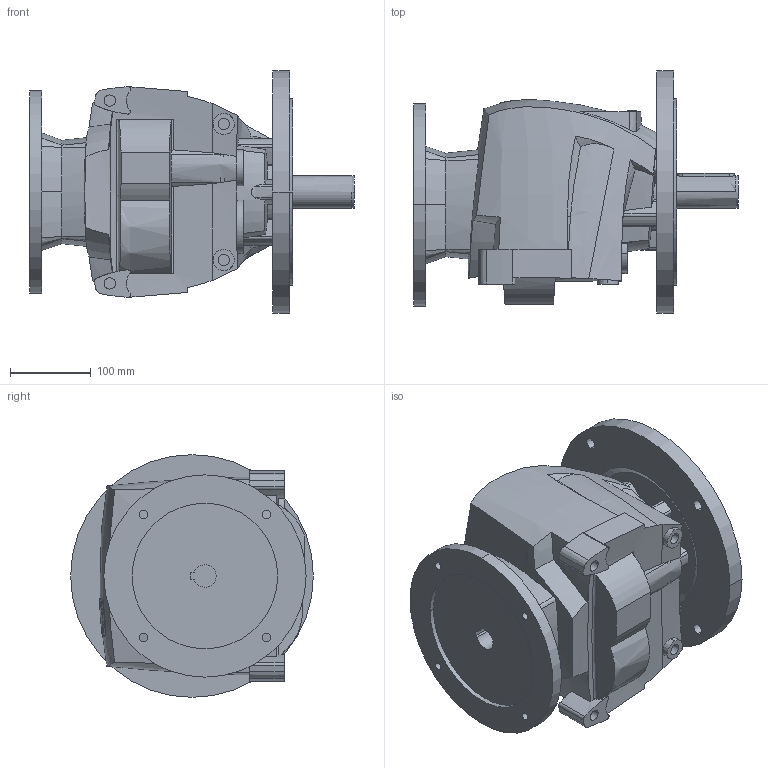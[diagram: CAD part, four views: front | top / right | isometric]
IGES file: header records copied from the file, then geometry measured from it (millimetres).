
Start section:  PTC IGES file: r40_300_pam100112.igs
Global section: file name: r40_300_pam100112.igs; native system: Pro/ENGINEER by Parametric Technology Corporation; preprocessor: 2008230; author: Luca; organization: Unknown; date: 20131127.142459; units: millimetre
Bounding box: 401.5 x 300 x 300 mm (x, y, z)
Volume: 12558683.7 mm3; surface area: 566883.9 mm2
Topology: 1 solids, 7 shells, 449 faces, 1213 edges, 810 vertices
Faces by surface type: bspline 214, revolution 198, extrusion 37
